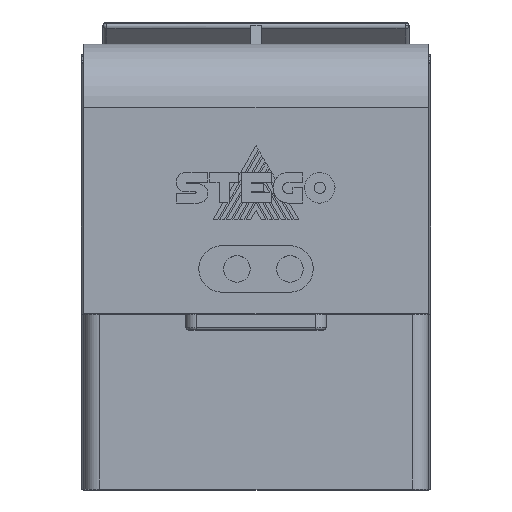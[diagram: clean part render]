
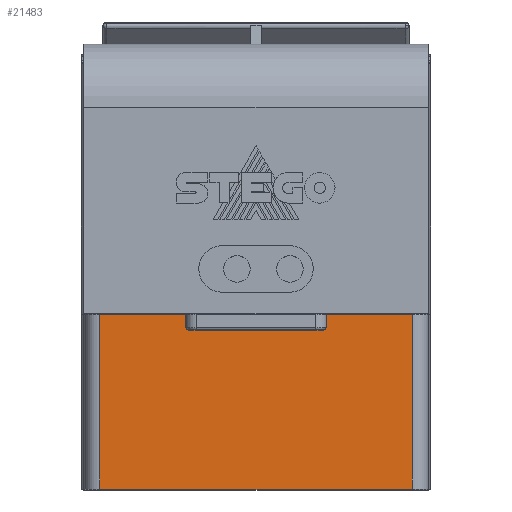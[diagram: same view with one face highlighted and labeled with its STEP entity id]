
A CAD part, top view. The second image highlights one B-rep face of the part: STEP entity #21483.
In plain terms, the highlighted planar face has unit normal (0, 0, 1).
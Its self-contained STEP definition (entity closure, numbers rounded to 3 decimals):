
#107 = EDGE_CURVE ( 'NONE', #8790, #34101, #2916, .T. ) ;
#151 = VERTEX_POINT ( 'NONE', #11173 ) ;
#597 = ORIENTED_EDGE ( 'NONE', *, *, #107, .T. ) ;
#2676 = CARTESIAN_POINT ( 'NONE',  ( 3.5, 5.25, 108. ) ) ;
#2773 = VECTOR ( 'NONE', #10591, 1000. ) ;
#2864 = DIRECTION ( 'NONE',  ( 1., 0., 0. ) ) ;
#2916 = LINE ( 'NONE', #8030, #30371 ) ;
#3774 = CARTESIAN_POINT ( 'NONE',  ( 3.5, -27.75, 108. ) ) ;
#5296 = ORIENTED_EDGE ( 'NONE', *, *, #30256, .T. ) ;
#7665 = DIRECTION ( 'NONE',  ( 0., 0., -1. ) ) ;
#8030 = CARTESIAN_POINT ( 'NONE',  ( 0.357, -27.75, 108. ) ) ;
#8790 = VERTEX_POINT ( 'NONE', #3774 ) ;
#10309 = CARTESIAN_POINT ( 'NONE',  ( 62.5, 5.25, 108. ) ) ;
#10591 = DIRECTION ( 'NONE',  ( 0., -1., 0. ) ) ;
#11173 = CARTESIAN_POINT ( 'NONE',  ( 62.5, 5.25, 108. ) ) ;
#11816 = EDGE_LOOP ( 'NONE', ( #31740, #5296, #597, #13918 ) ) ;
#13399 = DIRECTION ( 'NONE',  ( 1., 0., 0. ) ) ;
#13918 = ORIENTED_EDGE ( 'NONE', *, *, #16104, .T. ) ;
#15658 = DIRECTION ( 'NONE',  ( 0., 1., 0. ) ) ;
#16104 = EDGE_CURVE ( 'NONE', #34101, #151, #34494, .T. ) ;
#16202 = EDGE_CURVE ( 'NONE', #31094, #151, #24100, .T. ) ;
#17011 = VECTOR ( 'NONE', #2864, 1000. ) ;
#17180 = CARTESIAN_POINT ( 'NONE',  ( 62.5, -27.75, 108. ) ) ;
#21483 = ADVANCED_FACE ( 'NONE', ( #28976 ), #23610, .F. ) ;
#23610 = PLANE ( 'NONE',  #25258 ) ;
#24019 = LINE ( 'NONE', #2676, #2773 ) ;
#24100 = LINE ( 'NONE', #24164, #17011 ) ;
#24164 = CARTESIAN_POINT ( 'NONE',  ( 0.357, 5.25, 108. ) ) ;
#25258 = AXIS2_PLACEMENT_3D ( 'NONE', #34167, #7665, #26293 ) ;
#26293 = DIRECTION ( 'NONE',  ( -1., 0., 0. ) ) ;
#28976 = FACE_OUTER_BOUND ( 'NONE', #11816, .T. ) ;
#30256 = EDGE_CURVE ( 'NONE', #31094, #8790, #24019, .T. ) ;
#30371 = VECTOR ( 'NONE', #13399, 1000. ) ;
#31094 = VERTEX_POINT ( 'NONE', #31431 ) ;
#31431 = CARTESIAN_POINT ( 'NONE',  ( 3.5, 5.25, 108. ) ) ;
#31740 = ORIENTED_EDGE ( 'NONE', *, *, #16202, .F. ) ;
#33641 = VECTOR ( 'NONE', #15658, 1000. ) ;
#34101 = VERTEX_POINT ( 'NONE', #17180 ) ;
#34167 = CARTESIAN_POINT ( 'NONE',  ( 0.357, 5.25, 108. ) ) ;
#34494 = LINE ( 'NONE', #10309, #33641 ) ;
